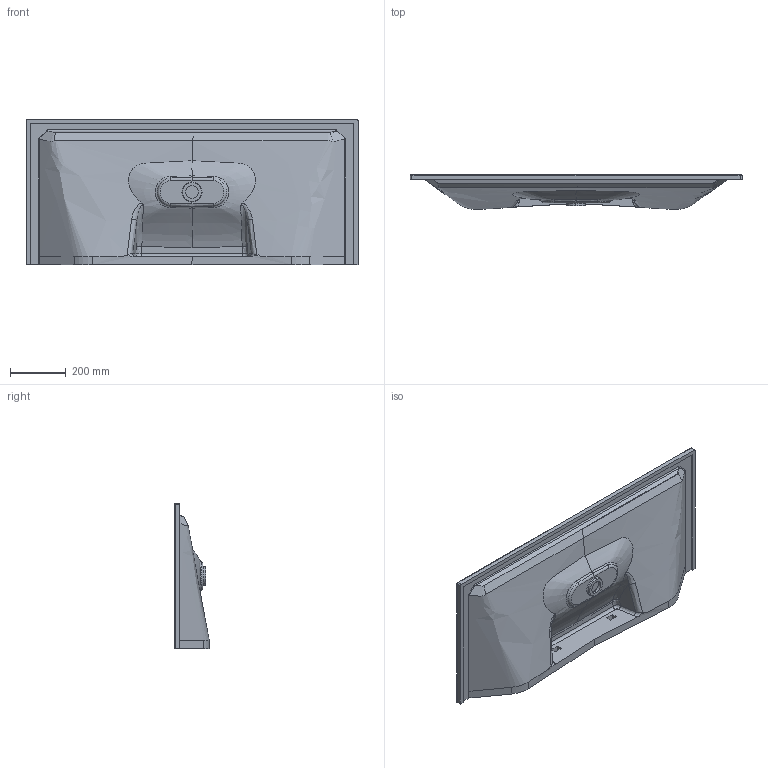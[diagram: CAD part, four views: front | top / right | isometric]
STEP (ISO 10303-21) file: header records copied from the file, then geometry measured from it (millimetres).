
FILE_DESCRIPTION (( 'STEP AP203' ), '1' );
FILE_NAME ('DP120.STEP', '2018-01-15T11:42:27', ( '' ), ( '' ), 'SwSTEP 2.0', 'SolidWorks 2016', '' );
FILE_SCHEMA (( 'CONFIG_CONTROL_DESIGN' ));
Products named in the file (1): DP120
Bounding box: 1195 x 124.5 x 525 mm (x, y, z)
Volume: 26287005.3 mm3; surface area: 1621159.9 mm2
Topology: 2 solids, 3 shells, 152 faces, 395 edges, 246 vertices
Faces by surface type: bspline 104, plane 27, cylinder 12, torus 7, cone 2
Entity records: 39838 total; most frequent: CARTESIAN_POINT 36890, ORIENTED_EDGE 782, EDGE_CURVE 391, DIRECTION 301, B_SPLINE_CURVE_WITH_KNOTS 251, VERTEX_POINT 246, EDGE_LOOP 159, ADVANCED_FACE 152
